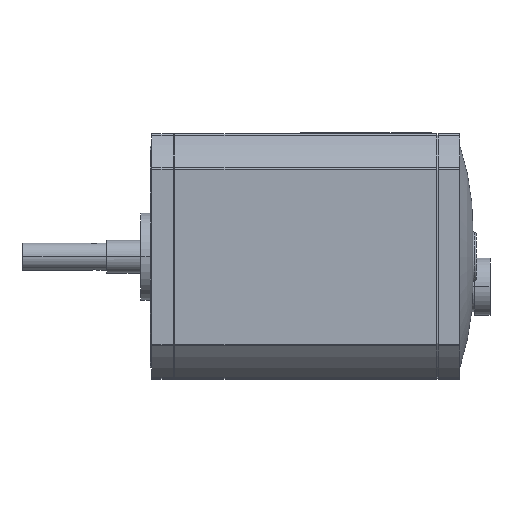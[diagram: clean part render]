
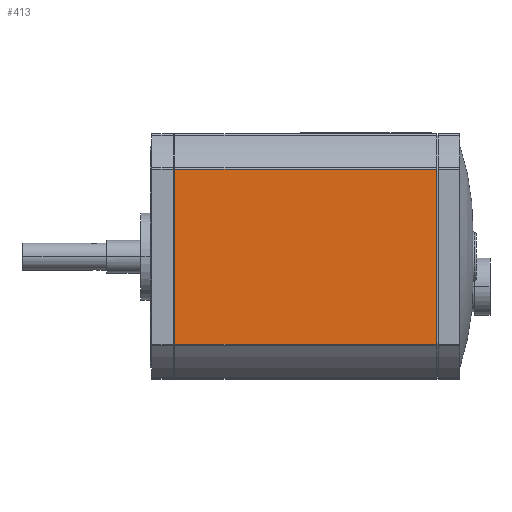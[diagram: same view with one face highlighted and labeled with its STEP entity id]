
A CAD part, front view. The second image highlights one B-rep face of the part: STEP entity #413.
In plain terms, the highlighted planar face has unit normal (0, -1, 0).
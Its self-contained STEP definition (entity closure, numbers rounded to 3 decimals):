
#413 = ADVANCED_FACE( '', ( #1215 ), #1216, .T. );
#1215 = FACE_OUTER_BOUND( '', #2129, .T. );
#1216 = PLANE( '', #2130 );
#2129 = EDGE_LOOP( '', ( #4997, #4998, #4999, #5000 ) );
#2130 = AXIS2_PLACEMENT_3D( '', #5001, #5002, #5003 );
#4997 = ORIENTED_EDGE( '', *, *, #6637, .T. );
#4998 = ORIENTED_EDGE( '', *, *, #6674, .F. );
#4999 = ORIENTED_EDGE( '', *, *, #6679, .T. );
#5000 = ORIENTED_EDGE( '', *, *, #6680, .T. );
#5001 = CARTESIAN_POINT( '', ( 4.5, -45., -32.123 ) );
#5002 = DIRECTION( '', ( 0., -1., 0. ) );
#5003 = DIRECTION( '', ( 0., 0., -1. ) );
#6637 = EDGE_CURVE( '', #8300, #8298, #8301, .T. );
#6674 = EDGE_CURVE( '', #8357, #8298, #8359, .T. );
#6679 = EDGE_CURVE( '', #8357, #8366, #8367, .T. );
#6680 = EDGE_CURVE( '', #8366, #8300, #8368, .T. );
#8298 = VERTEX_POINT( '', #10628 );
#8300 = VERTEX_POINT( '', #10630 );
#8301 = LINE( '', #10631, #10632 );
#8357 = VERTEX_POINT( '', #10714 );
#8359 = LINE( '', #10716, #10717 );
#8366 = VERTEX_POINT( '', #10726 );
#8367 = LINE( '', #10727, #10728 );
#8368 = LINE( '', #10729, #10730 );
#10628 = CARTESIAN_POINT( '', ( 109., -45., 32.123 ) );
#10630 = CARTESIAN_POINT( '', ( 109., -45., -32.123 ) );
#10631 = CARTESIAN_POINT( '', ( 109., -45., -16.061 ) );
#10632 = VECTOR( '', #12805, 1. );
#10714 = CARTESIAN_POINT( '', ( 13., -45., 32.123 ) );
#10716 = CARTESIAN_POINT( '', ( 4.5, -45., 32.123 ) );
#10717 = VECTOR( '', #12862, 1. );
#10726 = CARTESIAN_POINT( '', ( 13., -45., -32.123 ) );
#10727 = CARTESIAN_POINT( '', ( 13., -45., -16.061 ) );
#10728 = VECTOR( '', #12871, 1. );
#10729 = CARTESIAN_POINT( '', ( 4.5, -45., -32.123 ) );
#10730 = VECTOR( '', #12872, 1. );
#12805 = DIRECTION( '', ( 0., 0., 1. ) );
#12862 = DIRECTION( '', ( 1., 0., 0. ) );
#12871 = DIRECTION( '', ( 0., 0., -1. ) );
#12872 = DIRECTION( '', ( 1., 0., 0. ) );
